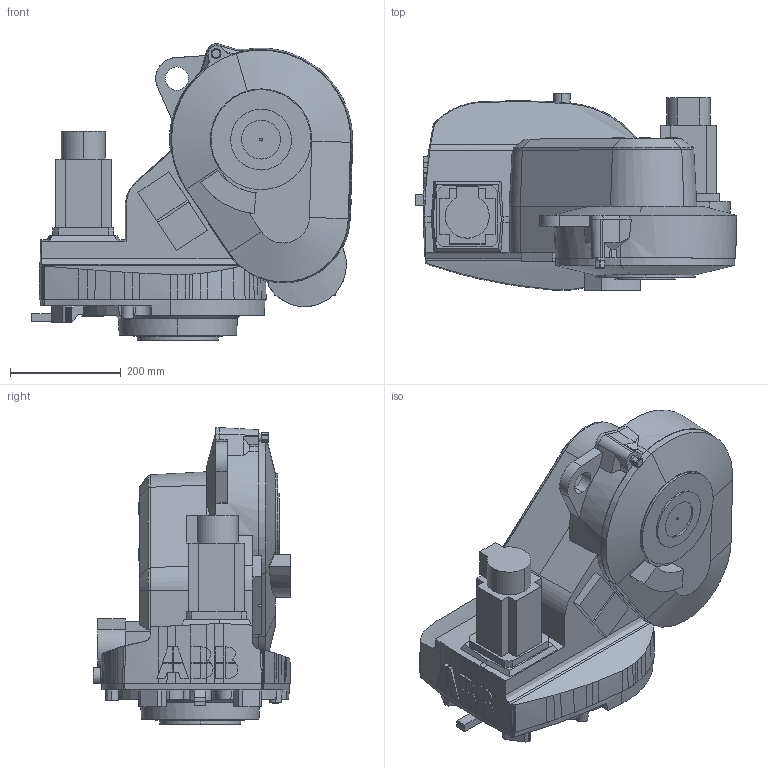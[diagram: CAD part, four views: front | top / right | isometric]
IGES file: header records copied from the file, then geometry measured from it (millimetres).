
Start section: SolidWorks IGES file using analytic representation for surfaces
Global section: file name: C:\Holley\Robot\IRB1600\CAD model\IRB1600_X-145_SW_IRC5_rev02\IRB1600_X-145_SW\IRB1600_X-145_IRC5_rev1_LINK1.IGS; native system: SolidWorks 2020; preprocessor: SolidWorks 2020; author: CNHOCHE3; date: 211129.144026; units: millimetre
Bounding box: 579.25 x 355.5 x 535.06 mm (x, y, z)
Volume: 40470934.3 mm3; surface area: 1129949.1 mm2
Topology: 4 solids, 4 shells, 632 faces, 1744 edges, 1145 vertices
Faces by surface type: plane 388, bspline 220, revolution 24
